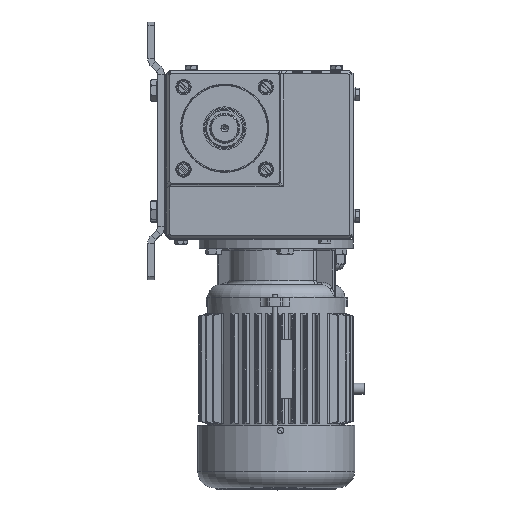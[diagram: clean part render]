
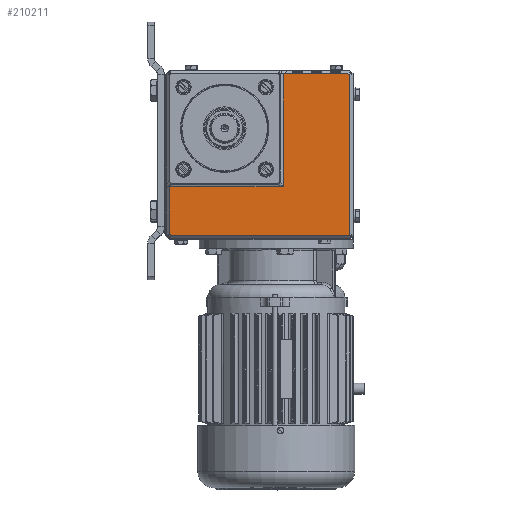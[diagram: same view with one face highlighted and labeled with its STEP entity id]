
A CAD part, top view. The second image highlights one B-rep face of the part: STEP entity #210211.
In plain terms, the highlighted planar face has unit normal (0, 0, 1).
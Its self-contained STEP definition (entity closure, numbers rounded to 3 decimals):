
#995 = EDGE_CURVE ( 'NONE', #187855, #129350, #152486, .T. ) ;
#2001 = EDGE_CURVE ( 'NONE', #268284, #187855, #315298, .T. ) ;
#4406 = VECTOR ( 'NONE', #55476, 1000. ) ;
#6286 =( BOUNDED_CURVE ( )  B_SPLINE_CURVE ( 3, ( #69040, #26509, #163054, #17095 ),
 .UNSPECIFIED., .F., .T. ) 
 B_SPLINE_CURVE_WITH_KNOTS ( ( 4, 4 ),
 ( 2.618, 3.665 ),
 .UNSPECIFIED. ) 
 CURVE ( )  GEOMETRIC_REPRESENTATION_ITEM ( )  RATIONAL_B_SPLINE_CURVE ( ( 1., 0.911, 0.911, 1. ) ) 
 REPRESENTATION_ITEM ( '' )  );
#8126 = EDGE_CURVE ( 'NONE', #192250, #268284, #74100, .T. ) ;
#11508 = VECTOR ( 'NONE', #94819, 1000. ) ;
#12404 = CARTESIAN_POINT ( 'NONE',  ( 111.879, 49.5, 96. ) ) ;
#13734 = CARTESIAN_POINT ( 'NONE',  ( -47.879, -97.8, 96. ) ) ;
#14063 = EDGE_CURVE ( 'NONE', #46828, #192250, #265176, .T. ) ;
#14657 = EDGE_CURVE ( 'NONE', #204326, #46828, #105767, .T. ) ;
#17095 = CARTESIAN_POINT ( 'NONE',  ( 114., -95.679, 96. ) ) ;
#23281 = ORIENTED_EDGE ( 'NONE', *, *, #995, .T. ) ;
#24130 = CARTESIAN_POINT ( 'NONE',  ( 111.879, -97.8, 96. ) ) ;
#26239 = PLANE ( 'NONE',  #263337 ) ;
#26509 = CARTESIAN_POINT ( 'NONE',  ( 113.224, -97.8, 96. ) ) ;
#27345 = CARTESIAN_POINT ( 'NONE',  ( -53., 52.5, 96. ) ) ;
#28567 = EDGE_CURVE ( 'NONE', #105499, #204326, #137300, .T. ) ;
#29200 = DIRECTION ( 'NONE',  ( 0., -1., 0. ) ) ;
#29249 = CARTESIAN_POINT ( 'NONE',  ( -50., 52.5, 96. ) ) ;
#35710 = EDGE_CURVE ( 'NONE', #214023, #75626, #6286, .T. ) ;
#37594 = CARTESIAN_POINT ( 'NONE',  ( 114., 47.379, 96. ) ) ;
#44908 = VECTOR ( 'NONE', #232712, 1000. ) ;
#45146 =( BOUNDED_CURVE ( )  B_SPLINE_CURVE ( 3, ( #117015, #301146, #170828, #13734 ),
 .UNSPECIFIED., .F., .F. ) 
 B_SPLINE_CURVE_WITH_KNOTS ( ( 4, 4 ),
 ( 2.618, 3.665 ),
 .UNSPECIFIED. ) 
 CURVE ( )  GEOMETRIC_REPRESENTATION_ITEM ( )  RATIONAL_B_SPLINE_CURVE ( ( 1., 0.911, 0.911, 1. ) ) 
 REPRESENTATION_ITEM ( '' )  );
#46828 = VERTEX_POINT ( 'NONE', #189555 ) ;
#47014 = VECTOR ( 'NONE', #332153, 1000. ) ;
#50260 = EDGE_CURVE ( 'NONE', #178437, #214023, #186448, .T. ) ;
#53697 = DIRECTION ( 'NONE',  ( -1., 0., 0. ) ) ;
#55476 = DIRECTION ( 'NONE',  ( 0., -1., 0. ) ) ;
#65881 = CARTESIAN_POINT ( 'NONE',  ( 113.224, 49.5, 96. ) ) ;
#69040 = CARTESIAN_POINT ( 'NONE',  ( 111.879, -97.8, 96. ) ) ;
#74100 = LINE ( 'NONE', #279525, #4406 ) ;
#75626 = VERTEX_POINT ( 'NONE', #188892 ) ;
#77373 = ORIENTED_EDGE ( 'NONE', *, *, #35710, .T. ) ;
#81221 = LINE ( 'NONE', #251575, #11508 ) ;
#82448 = ORIENTED_EDGE ( 'NONE', *, *, #50260, .T. ) ;
#85852 = FACE_OUTER_BOUND ( 'NONE', #181383, .T. ) ;
#94819 = DIRECTION ( 'NONE',  ( 0., 1., 0. ) ) ;
#97132 = CARTESIAN_POINT ( 'NONE',  ( 53.243, 49.645, 96. ) ) ;
#102271 = CARTESIAN_POINT ( 'NONE',  ( 52., 49.5, 96. ) ) ;
#105499 = VERTEX_POINT ( 'NONE', #322666 ) ;
#105767 = LINE ( 'NONE', #102271, #306454 ) ;
#106802 = ORIENTED_EDGE ( 'NONE', *, *, #28567, .T. ) ;
#113334 = ORIENTED_EDGE ( 'NONE', *, *, #8126, .T. ) ;
#115139 = ORIENTED_EDGE ( 'NONE', *, *, #14657, .T. ) ;
#117015 = CARTESIAN_POINT ( 'NONE',  ( -50., -95.679, 96. ) ) ;
#122837 = ORIENTED_EDGE ( 'NONE', *, *, #202215, .T. ) ;
#129350 = VERTEX_POINT ( 'NONE', #221182 ) ;
#137300 =( BOUNDED_CURVE ( )  B_SPLINE_CURVE ( 3, ( #37594, #147279, #65881, #12404 ),
 .UNSPECIFIED., .F., .F. ) 
 B_SPLINE_CURVE_WITH_KNOTS ( ( 4, 4 ),
 ( 2.618, 3.665 ),
 .UNSPECIFIED. ) 
 CURVE ( )  GEOMETRIC_REPRESENTATION_ITEM ( )  RATIONAL_B_SPLINE_CURVE ( ( 1., 0.911, 0.911, 1. ) ) 
 REPRESENTATION_ITEM ( '' )  );
#144293 = VECTOR ( 'NONE', #29200, 1000. ) ;
#147279 = CARTESIAN_POINT ( 'NONE',  ( 114., 48.724, 96. ) ) ;
#152486 = LINE ( 'NONE', #29249, #144293 ) ;
#153962 = CARTESIAN_POINT ( 'NONE',  ( 53.243, -53.243, 96. ) ) ;
#162466 = EDGE_CURVE ( 'NONE', #129350, #178437, #45146, .T. ) ;
#163054 = CARTESIAN_POINT ( 'NONE',  ( 114., -97.024, 96. ) ) ;
#165431 = ORIENTED_EDGE ( 'NONE', *, *, #162466, .T. ) ;
#170828 = CARTESIAN_POINT ( 'NONE',  ( -49.224, -97.8, 96. ) ) ;
#178437 = VERTEX_POINT ( 'NONE', #318994 ) ;
#181383 = EDGE_LOOP ( 'NONE', ( #82448, #77373, #122837, #106802, #115139, #297817, #113334, #269225, #23281, #165431 ) ) ;
#185504 = CARTESIAN_POINT ( 'NONE',  ( 53.505, 49.548, 96. ) ) ;
#186448 = LINE ( 'NONE', #332576, #47014 ) ;
#187280 = CARTESIAN_POINT ( 'NONE',  ( 53.243, 49.645, 96. ) ) ;
#187732 = CARTESIAN_POINT ( 'NONE',  ( 54.121, 49.5, 96. ) ) ;
#187855 = VERTEX_POINT ( 'NONE', #256244 ) ;
#188892 = CARTESIAN_POINT ( 'NONE',  ( 114., -95.679, 96. ) ) ;
#189556 = DIRECTION ( 'NONE',  ( -1., 0., 0. ) ) ;
#189555 = CARTESIAN_POINT ( 'NONE',  ( 54.121, 49.5, 96. ) ) ;
#192250 = VERTEX_POINT ( 'NONE', #97132 ) ;
#192255 = CARTESIAN_POINT ( 'NONE',  ( 53.8, 49.5, 96. ) ) ;
#202215 = EDGE_CURVE ( 'NONE', #75626, #105499, #81221, .T. ) ;
#204326 = VERTEX_POINT ( 'NONE', #274151 ) ;
#210211 = ADVANCED_FACE ( 'NONE', ( #85852 ), #26239, .F. ) ;
#210610 = DIRECTION ( 'NONE',  ( 0., 0., -1. ) ) ;
#214023 = VERTEX_POINT ( 'NONE', #24130 ) ;
#221182 = CARTESIAN_POINT ( 'NONE',  ( -50., -95.679, 96. ) ) ;
#232712 = DIRECTION ( 'NONE',  ( -1., 0., 0. ) ) ;
#233120 = CARTESIAN_POINT ( 'NONE',  ( -50., -53.243, 96. ) ) ;
#251575 = CARTESIAN_POINT ( 'NONE',  ( 114., 52.5, 96. ) ) ;
#256244 = CARTESIAN_POINT ( 'NONE',  ( -50., -53.243, 96. ) ) ;
#263337 = AXIS2_PLACEMENT_3D ( 'NONE', #27345, #210610, #53697 ) ;
#265176 =( BOUNDED_CURVE ( )  B_SPLINE_CURVE ( 3, ( #187732, #192255, #185504, #187280 ),
 .UNSPECIFIED., .F., .F. ) 
 B_SPLINE_CURVE_WITH_KNOTS ( ( 4, 4 ),
 ( 5.76, 6.021 ),
 .UNSPECIFIED. ) 
 CURVE ( )  GEOMETRIC_REPRESENTATION_ITEM ( )  RATIONAL_B_SPLINE_CURVE ( ( 1., 0.994, 0.994, 1. ) ) 
 REPRESENTATION_ITEM ( '' )  );
#268284 = VERTEX_POINT ( 'NONE', #153962 ) ;
#269225 = ORIENTED_EDGE ( 'NONE', *, *, #2001, .T. ) ;
#274151 = CARTESIAN_POINT ( 'NONE',  ( 111.879, 49.5, 96. ) ) ;
#279525 = CARTESIAN_POINT ( 'NONE',  ( 53.243, -52., 96. ) ) ;
#297817 = ORIENTED_EDGE ( 'NONE', *, *, #14063, .T. ) ;
#301146 = CARTESIAN_POINT ( 'NONE',  ( -50., -97.024, 96. ) ) ;
#306454 = VECTOR ( 'NONE', #189556, 1000. ) ;
#315298 = LINE ( 'NONE', #233120, #44908 ) ;
#318994 = CARTESIAN_POINT ( 'NONE',  ( -47.879, -97.8, 96. ) ) ;
#322666 = CARTESIAN_POINT ( 'NONE',  ( 114., 47.379, 96. ) ) ;
#332153 = DIRECTION ( 'NONE',  ( 1., 0., 0. ) ) ;
#332576 = CARTESIAN_POINT ( 'NONE',  ( 117., -97.8, 96. ) ) ;
